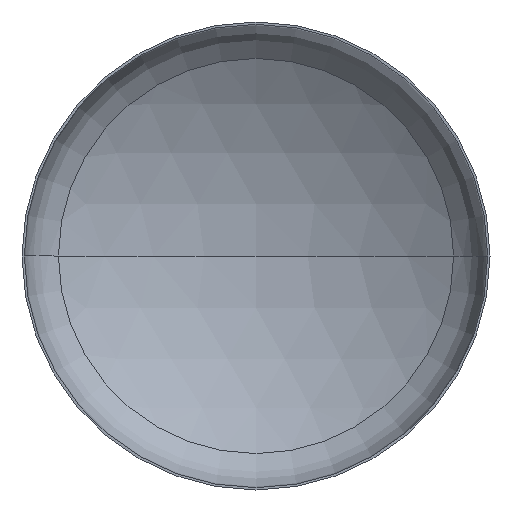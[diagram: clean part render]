
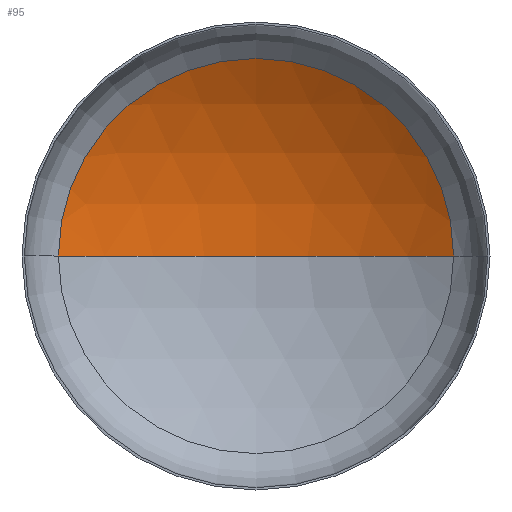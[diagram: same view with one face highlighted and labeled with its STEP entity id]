
A CAD part, front view. The second image highlights one B-rep face of the part: STEP entity #95.
In plain terms, the highlighted spherical face has radius 5600 mm.
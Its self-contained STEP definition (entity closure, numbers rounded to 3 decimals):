
#45 = VERTEX_POINT ( 'NONE', #255 ) ;
#46 = ORIENTED_EDGE ( 'NONE', *, *, #123, .T. ) ;
#52 = ORIENTED_EDGE ( 'NONE', *, *, #128, .T. ) ;
#58 = VERTEX_POINT ( 'NONE', #243 ) ;
#62 = AXIS2_PLACEMENT_3D ( 'NONE', #188, #189, #317 ) ;
#69 = AXIS2_PLACEMENT_3D ( 'NONE', #217, #210, #207 ) ;
#70 = AXIS2_PLACEMENT_3D ( 'NONE', #192, #307, #306 ) ;
#95 = ADVANCED_FACE ( 'NONE', ( #168 ), #280, .F. ) ;
#100 = AXIS2_PLACEMENT_3D ( 'NONE', #234, #251, #230 ) ;
#107 = ORIENTED_EDGE ( 'NONE', *, *, #130, .F. ) ;
#109 = VERTEX_POINT ( 'NONE', #355 ) ;
#110 = EDGE_LOOP ( 'NONE', ( #107, #52, #46 ) ) ;
#123 = EDGE_CURVE ( 'NONE', #45, #58, #329, .T. ) ;
#128 = EDGE_CURVE ( 'NONE', #109, #45, #150, .T. ) ;
#130 = EDGE_CURVE ( 'NONE', #109, #58, #392, .T. ) ;
#150 = CIRCLE ( 'NONE', #69, 5600. ) ;
#168 = FACE_OUTER_BOUND ( 'NONE', #110, .T. ) ;
#188 = CARTESIAN_POINT ( 'NONE',  ( 0., -3729.554, 0. ) ) ;
#189 = DIRECTION ( 'NONE',  ( 0., 0., 1. ) ) ;
#192 = CARTESIAN_POINT ( 'NONE',  ( 0., 1027.416, 0. ) ) ;
#207 = DIRECTION ( 'NONE',  ( -1., 0., 0. ) ) ;
#210 = DIRECTION ( 'NONE',  ( 0., 0., -1. ) ) ;
#217 = CARTESIAN_POINT ( 'NONE',  ( 0., -3729.554, 0. ) ) ;
#230 = DIRECTION ( 'NONE',  ( -1., 0., 0. ) ) ;
#234 = CARTESIAN_POINT ( 'NONE',  ( 0., -3729.554, 0. ) ) ;
#243 = CARTESIAN_POINT ( 'NONE',  ( -2954.867, 1027.416, 0. ) ) ;
#251 = DIRECTION ( 'NONE',  ( 0., 0., -1. ) ) ;
#255 = CARTESIAN_POINT ( 'NONE',  ( 2954.867, 1027.416, 0. ) ) ;
#280 = SPHERICAL_SURFACE ( 'NONE', #100, 5600. ) ;
#306 = DIRECTION ( 'NONE',  ( 1., 0., 0. ) ) ;
#307 = DIRECTION ( 'NONE',  ( 0., -1., 0. ) ) ;
#317 = DIRECTION ( 'NONE',  ( 1., 0., 0. ) ) ;
#329 = CIRCLE ( 'NONE', #70, 2954.867 ) ;
#355 = CARTESIAN_POINT ( 'NONE',  ( 0., 1870.446, 0. ) ) ;
#392 = CIRCLE ( 'NONE', #62, 5600. ) ;
